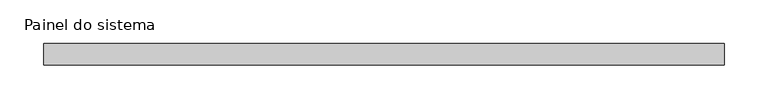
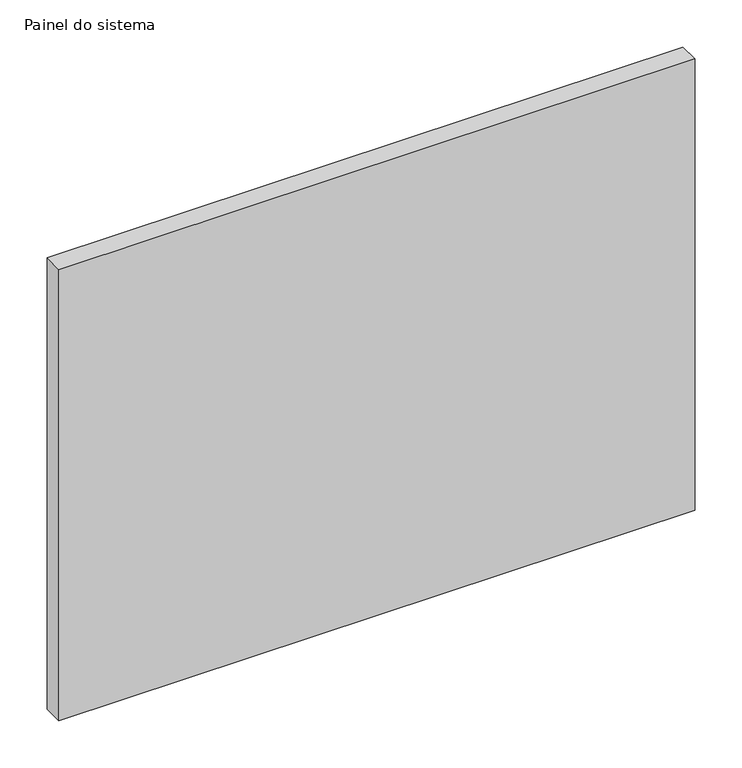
"""IFC4 building model written with IfcOpenShell, lengths in millimetres: plate geometry, Painel do sistema : Envidraçado."""

from ifc_helpers import new_model, si_unit, origin, origin_with_axes, place, context, project, spatial, polyline, outline, extrude, source, transform, mapped, element, save


def painel_do_sistema_67813df6(model_context):
    return source(origin(), model_context, "Body", "SweptSolid", [
        extrude(outline(polyline([(390.0, 24.5), (-390.0, 24.5), (-390.0, 49.5), (390.0, 49.5), (390.0, 24.5)])), origin_with_axes(), (0.0, 0.0, 1.0), 585.0),
    ])


if __name__ == "__main__":
    model = new_model("IFC4")
    model_context = context("Model", 3, world=origin())
    ifc_project = project(units=[si_unit("LENGTHUNIT", "METRE", prefix="MILLI")], contexts=[model_context])
    site = spatial("IfcSite", under=ifc_project)
    building = spatial("IfcBuilding", under=site)
    placement = place(None, origin())
    painel_do_sistema_shape = painel_do_sistema_67813df6(model_context)
    element("IfcPlate", 1, ObjectType="Painel do sistema : Envidraçado", at=placement, inside=building, context=model_context, shape_type="MappedRepresentation", body=[
        mapped(painel_do_sistema_shape, transform((0.0, 0.0, 0.0), x_axis=(1.0, 0.0, 0.0), y_axis=(0.0, 1.0, 0.0), z_axis=(0.0, 0.0, 1.0))),
    ])
    save(model, "model.ifc")
